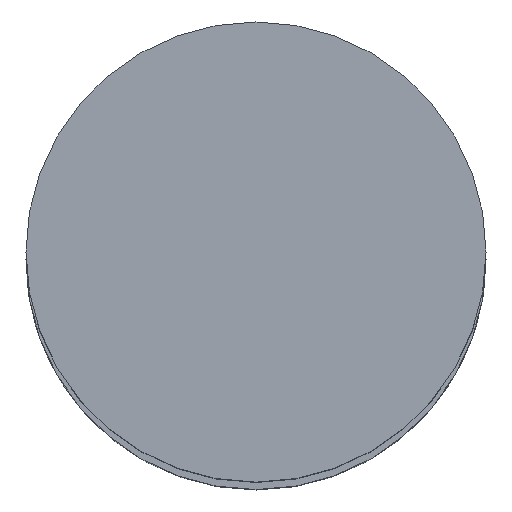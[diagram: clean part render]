
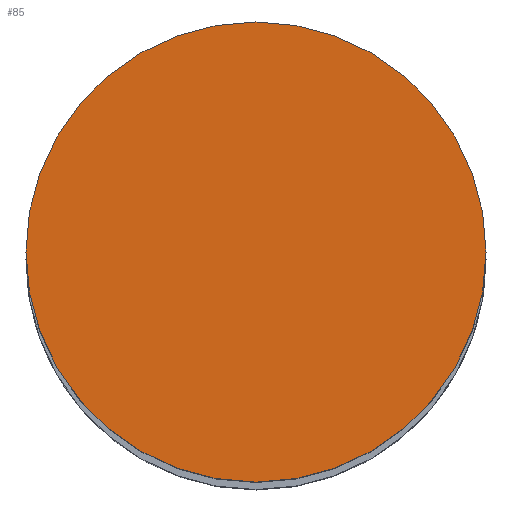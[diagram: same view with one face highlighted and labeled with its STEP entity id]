
A CAD part, top view. The second image highlights one B-rep face of the part: STEP entity #85.
In plain terms, the highlighted planar face has unit normal (0, 0, 1).
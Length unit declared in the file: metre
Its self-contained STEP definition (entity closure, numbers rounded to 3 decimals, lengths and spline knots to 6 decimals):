
#85=ADVANCED_FACE('56:4857',(#165),#166,.F.);
#165=FACE_OUTER_BOUND('',#244,.T.);
#166=PLANE('',#245);
#244=EDGE_LOOP('',(#390,#391));
#245=AXIS2_PLACEMENT_3D('',#392,#393,#394);
#390=ORIENTED_EDGE('',*,*,#433,.F.);
#391=ORIENTED_EDGE('',*,*,#478,.F.);
#392=CARTESIAN_POINT('',(-0.000092,0.000095,3.024));
#393=DIRECTION('',(0.0,0.0,-1.0));
#394=DIRECTION('',(1.0,0.0,0.0));
#433=EDGE_CURVE('27:1418',#505,#501,#507,.T.);
#478=EDGE_CURVE('',#501,#505,#572,.T.);
#501=VERTEX_POINT('',#607);
#505=VERTEX_POINT('',#612);
#507=CIRCLE('',#615,0.0155);
#572=CIRCLE('',#694,0.0155);
#607=CARTESIAN_POINT('',(0.015408,0.000095,3.024));
#612=CARTESIAN_POINT('',(-0.015592,0.000095,3.024));
#615=AXIS2_PLACEMENT_3D('',#736,#737,#738);
#694=AXIS2_PLACEMENT_3D('',#801,#802,#803);
#736=CARTESIAN_POINT('',(-0.000092,0.000095,3.024));
#737=DIRECTION('',(0.0,0.0,-1.0));
#738=DIRECTION('',(1.0,0.0,0.0));
#801=CARTESIAN_POINT('',(-0.000092,0.000095,3.024));
#802=DIRECTION('',(0.0,0.0,-1.0));
#803=DIRECTION('',(1.0,0.0,0.0));
